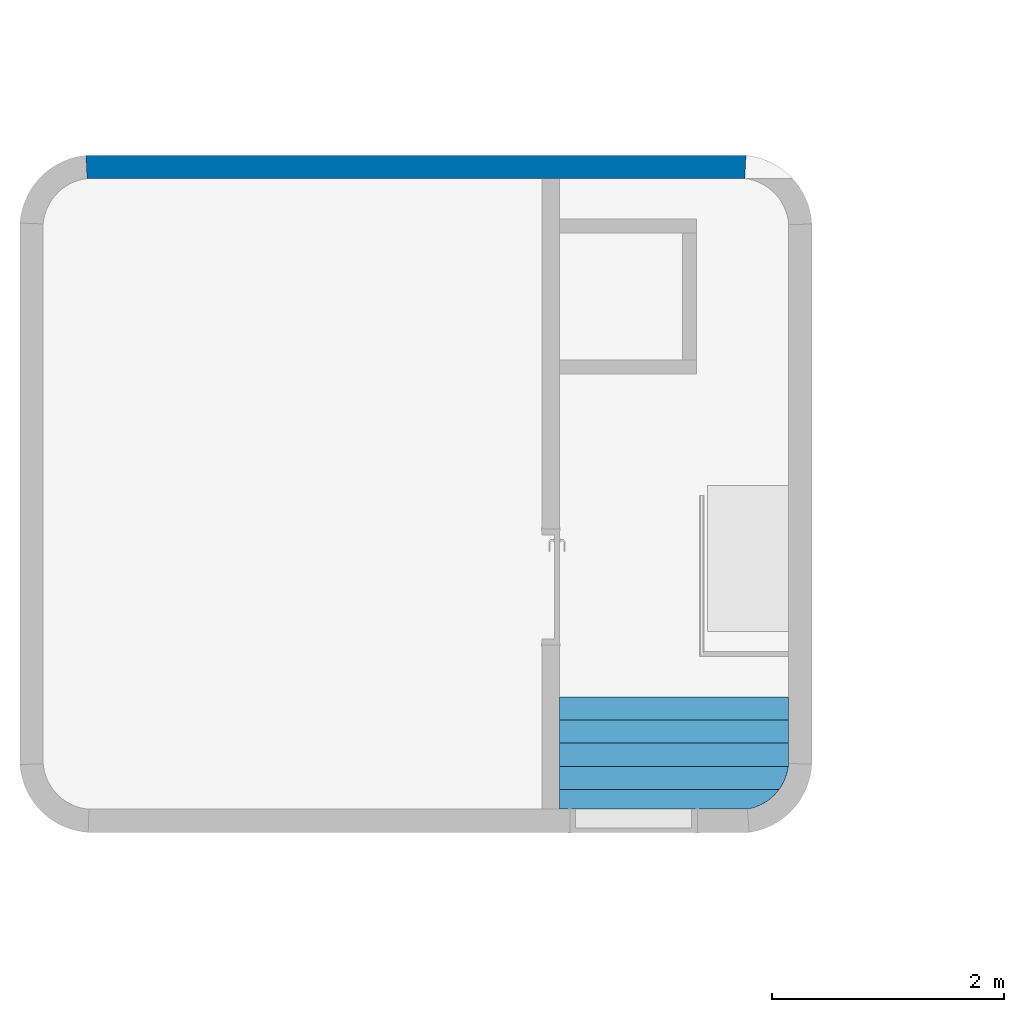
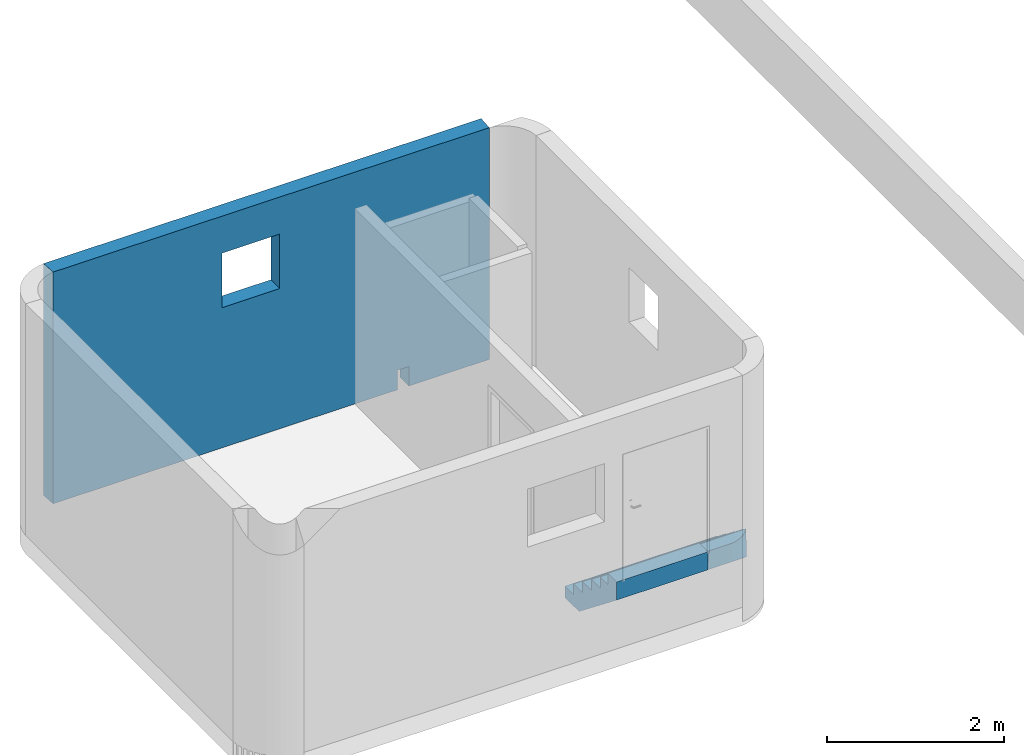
# One storey, part 2 of 2: 1 stair, 1 wall.
"""IFC2X3 building model written with IfcOpenShell, lengths in metres."""

from ifc_helpers import new_model, entity, si_unit, converted_unit, derived_unit, direction, frame, origin, place, context, subcontext, project, spatial, faceted_brep, material, layer, layer_set, type_object, element, save


model = new_model("IFC2X3")

# Units and contexts
model_context = context("Model", 3, precision=1e-05, world=origin(), true_north=direction((6.12303176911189e-17, 1.0)))
body_context = subcontext(model_context, "Body", "Model", "MODEL_VIEW")
ifc_project = project(units=[si_unit("LENGTHUNIT", "METRE"), si_unit("AREAUNIT", "SQUARE_METRE"), si_unit("VOLUMEUNIT", "CUBIC_METRE"), converted_unit("PLANEANGLEUNIT", "DEGREE", entity("IfcRatioMeasure", 0.0174532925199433), si_unit("PLANEANGLEUNIT", "RADIAN"), dimensions=[0, 0, 0, 0, 0, 0, 0]), si_unit("MASSUNIT", "GRAM", prefix="KILO"), derived_unit("MASSDENSITYUNIT", [(si_unit("MASSUNIT", "GRAM", prefix="KILO"), 1), (si_unit("LENGTHUNIT", "METRE"), -3)]), derived_unit("MOMENTOFINERTIAUNIT", [(si_unit("LENGTHUNIT", "METRE"), 4)]), si_unit("TIMEUNIT", "SECOND"), si_unit("FREQUENCYUNIT", "HERTZ"), si_unit("THERMODYNAMICTEMPERATUREUNIT", "DEGREE_CELSIUS"), derived_unit("THERMALTRANSMITTANCEUNIT", [(si_unit("MASSUNIT", "GRAM", prefix="KILO"), 1), (si_unit("THERMODYNAMICTEMPERATUREUNIT", "KELVIN"), -1), (si_unit("TIMEUNIT", "SECOND"), -3)]), derived_unit("VOLUMETRICFLOWRATEUNIT", [(si_unit("LENGTHUNIT", "METRE"), 3), (si_unit("TIMEUNIT", "SECOND"), -1)]), si_unit("ELECTRICCURRENTUNIT", "AMPERE"), si_unit("ELECTRICVOLTAGEUNIT", "VOLT"), si_unit("POWERUNIT", "WATT"), si_unit("FORCEUNIT", "NEWTON", prefix="KILO"), si_unit("ILLUMINANCEUNIT", "LUX"), si_unit("LUMINOUSFLUXUNIT", "LUMEN"), si_unit("LUMINOUSINTENSITYUNIT", "CANDELA"), derived_unit("USERDEFINED", [(si_unit("MASSUNIT", "GRAM", prefix="KILO"), -1), (si_unit("LENGTHUNIT", "METRE"), -2), (si_unit("TIMEUNIT", "SECOND"), 3), (si_unit("LUMINOUSFLUXUNIT", "LUMEN"), 1)]), derived_unit("LINEARVELOCITYUNIT", [(si_unit("LENGTHUNIT", "METRE"), 1), (si_unit("TIMEUNIT", "SECOND"), -1)]), si_unit("PRESSUREUNIT", "PASCAL"), derived_unit("USERDEFINED", [(si_unit("LENGTHUNIT", "METRE"), -2), (si_unit("MASSUNIT", "GRAM", prefix="KILO"), 1), (si_unit("TIMEUNIT", "SECOND"), -2)]), derived_unit("LINEARFORCEUNIT", [(si_unit("MASSUNIT", "GRAM", prefix="KILO"), 1), (si_unit("LENGTHUNIT", "METRE"), 1), (si_unit("TIMEUNIT", "SECOND"), -2), (si_unit("LENGTHUNIT", "METRE"), -1)]), derived_unit("PLANARFORCEUNIT", [(si_unit("MASSUNIT", "GRAM", prefix="KILO"), 1), (si_unit("LENGTHUNIT", "METRE"), 1), (si_unit("TIMEUNIT", "SECOND"), -2), (si_unit("LENGTHUNIT", "METRE"), -2)])], contexts=[model_context])

# Site, building, storey
site_placement = place(None, origin())
site = spatial("IfcSite", under=ifc_project, at=site_placement, Name="Default", CompositionType="ELEMENT")
building_placement = place(site_placement, origin())
building = spatial("IfcBuilding", under=site, at=building_placement, CompositionType="ELEMENT")
storey_placement = place(building_placement, frame((0.0, 0.0, 10.1533082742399)))
storey = spatial("IfcBuildingStorey", under=building, at=storey_placement, Name="Niveau 3 - 01", CompositionType="ELEMENT", Elevation=10.1533082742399)

# Wall
ifc_material = material(Name="Maçonnerie - Voile BA")
ifc_layer = layer(ifc_material, 0.2)
ifc_layer_set = layer_set([ifc_layer], Name="Mur de base:Ext. Voile BA 200")
wall_type = type_object("IfcWallType", Name="Mur de base:Ext. Voile BA 200", PredefinedType="STANDARD", material=ifc_layer_set)
wall_placement = place(storey_placement, frame((-9.7382398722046, -3.26411513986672, 0.0), z_axis=(0.0, 0.0, 1.0), x_axis=(-1.0, 0.0, 0.0)))
element("IfcWall", 1, at=wall_placement, inside=storey, type_object=wall_type, Name="Mur de base:Ext. Voile BA 200", ObjectType="Mur de base:Ext. Voile BA 200", context=body_context, shape_type="Brep", body=[
    faceted_brep([(5.69914326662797, -0.1, 3.19), (0.0, -0.1, 3.19), (0.0, -0.1, 0.0), (1.05574929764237, -0.1, 0.0), (1.05574929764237, -0.1, 0.269999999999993), (1.20574929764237, -0.1, 0.269999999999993), (1.20574929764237, -0.1, 0.0), (5.69914326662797, -0.1, 0.0), (3.48885260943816, -0.100000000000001, 2.68079237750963), (3.48885260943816, -0.100000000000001, 1.93079237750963), (2.73885260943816, -0.1, 1.93079237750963), (2.73885260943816, -0.1, 2.68079237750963), (0.0105120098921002, 0.1, 3.19), (5.68863125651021, 0.1, 3.19), (5.68863125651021, 0.1, 0.0), (1.76145541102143, 0.1, 0.0), (1.61145541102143, 0.0999999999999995, 0.0), (1.20574929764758, 0.1, 0.0), (1.20574929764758, 0.1, 0.269999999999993), (1.05574929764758, 0.1, 0.269999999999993), (1.05574929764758, 0.1, 0.0), (0.0105120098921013, 0.1, 0.0), (3.48885260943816, 0.0999999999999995, 1.93079237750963), (3.48885260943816, 0.0999999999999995, 2.68079237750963), (2.73885260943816, 0.1, 2.68079237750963), (2.73885260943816, 0.1, 1.93079237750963)], [[[0, 1, 2, 3, 4, 5, 6, 7], [8, 9, 10, 11]], [[12, 13, 14, 15, 16, 17, 18, 19, 20, 21], [22, 23, 24, 25]], [[1, 0, 13, 12]], [[13, 0, 7, 14]], [[1, 12, 21, 2]], [[9, 8, 23, 22]], [[10, 9, 22, 25]], [[11, 10, 25, 24]], [[8, 11, 24, 23]], [[5, 18, 17, 6]], [[19, 4, 3, 20]], [[18, 5, 4, 19]], [[7, 6, 17, 16, 15, 14]], [[3, 2, 21, 20]]]),
])

# Stair
stair_placement = place(storey_placement, frame((-11.3496952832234, -9.00911513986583, 0.0)))
element("IfcStair", 2, at=stair_placement, inside=storey, Name="Escalier coulé sur place:Escalier", ObjectType="Escalier coulé sur place:Escalier monobloc", ShapeType="STRAIGHT_RUN_STAIR", context=body_context, shape_type="Brep", body=[
    faceted_brep([(0.0, 0.969999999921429, 0.153333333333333), (1.98052592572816, 0.969999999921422, 0.153333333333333), (1.98052592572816, 1.16999999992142, 0.153333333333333), (0.0, 1.16999999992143, 0.153333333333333), (1.98052592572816, 0.969999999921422, 0.306666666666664), (1.98052592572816, 0.769999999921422, 0.306666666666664), (1.98052592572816, 0.769999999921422, 0.459999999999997), (1.98052592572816, 0.595000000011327, 0.459999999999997), (1.98052592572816, 0.595000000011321, 0.380641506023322), (1.98052592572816, 0.595000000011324, 0.290090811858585), (1.98052592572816, 0.595000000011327, 0.199540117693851), (1.98052592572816, 0.769999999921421, 0.0612239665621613), (1.98052592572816, 0.847461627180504, 0.0), (1.98052592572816, 0.969999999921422, 0.0), (1.98052592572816, 1.16999999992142, 0.0), (0.0, 1.16999999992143, 0.0), (0.0, 0.969999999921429, 0.0), (0.0, 0.847461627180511, 0.0), (0.0, 0.769999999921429, 0.0612239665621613), (0.0, 0.569999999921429, 0.21929956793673), (0.0, 0.369999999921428, 0.377375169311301), (0.0, 0.199999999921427, 0.511739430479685), (0.0, 0.0, 0.669815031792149), (0.0, 0.0, 0.919999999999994), (0.0, 0.199999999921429, 0.919999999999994), (0.0, 0.199999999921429, 0.766666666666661), (0.0, 0.369999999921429, 0.766666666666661), (0.0, 0.369999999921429, 0.61333333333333), (0.0, 0.569999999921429, 0.61333333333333), (0.0, 0.569999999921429, 0.459999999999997), (0.0, 0.769999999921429, 0.459999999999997), (0.0, 0.769999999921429, 0.306666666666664), (0.0, 0.969999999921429, 0.306666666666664), (1.19145256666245, 0.199999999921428, 0.511739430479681), (1.19145256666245, 0.0, 0.669815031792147), (1.97949356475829, 0.582482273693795, 0.209433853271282), (1.97809639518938, 0.56999999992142, 0.219299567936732), (1.96787104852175, 0.516614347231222, 0.261494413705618), (1.95099876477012, 0.464943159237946, 0.302334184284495), (1.92774863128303, 0.415810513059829, 0.341167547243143), (1.89849145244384, 0.369999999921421, 0.377375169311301), (1.86321537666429, 0.327737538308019, 0.410778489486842), (1.82283353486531, 0.290323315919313, 0.440349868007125), (1.77800650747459, 0.258369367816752, 0.465605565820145), (1.7294675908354, 0.232398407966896, 0.48613244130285), (1.67801080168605, 0.212835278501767, 0.501594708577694), (1.62447788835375, 0.199999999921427, 0.511739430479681), (1.97809639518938, 0.569999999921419, 0.459999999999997), (1.97949356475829, 0.582482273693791, 0.459999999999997), (1.97952719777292, 0.582829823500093, 0.335366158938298), (1.97809639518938, 0.569999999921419, 0.369449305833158), (1.89849145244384, 0.36999999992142, 0.61333333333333), (1.93618647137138, 0.431856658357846, 0.61333333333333), (1.9629743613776, 0.499158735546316, 0.61333333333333), (1.97809639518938, 0.569999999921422, 0.61333333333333), (1.19145256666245, 0.199999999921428, 0.766666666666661), (1.62447788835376, 0.200000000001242, 0.766666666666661), (1.68849576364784, 0.21621836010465, 0.766666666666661), (1.74927898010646, 0.242039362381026, 0.766666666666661), (1.80539658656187, 0.276855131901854, 0.766666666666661), (1.85552746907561, 0.3198460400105, 0.766666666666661), (1.89849145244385, 0.369999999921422, 0.766666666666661), (1.19145256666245, 0.0, 0.919999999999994), (1.19145256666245, 0.199999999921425, 0.919999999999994)], [[[0, 1, 2, 3]], [[2, 1, 4, 5, 6, 7, 8, 9, 10, 11, 12, 13, 14]], [[3, 2, 14, 15]], [[0, 3, 15, 16, 17, 18, 19, 20, 21, 22, 23, 24, 25, 26, 27, 28, 29, 30, 31, 32]], [[31, 5, 4, 32]], [[32, 4, 1, 0]], [[16, 15, 14, 13, 12, 17]], [[33, 34, 22, 21, 20, 19, 18, 17, 12, 11, 10, 35, 36, 37, 38, 39, 40, 41, 42, 43, 44, 45, 46]], [[29, 47, 48, 7, 6, 30]], [[48, 49, 8]], [[9, 49, 35]], [[8, 49, 9]], [[7, 48, 8]], [[35, 10, 9]], [[50, 49, 48]], [[35, 49, 36]], [[49, 50, 36]], [[48, 47, 50]], [[30, 6, 5, 31]], [[27, 51, 52, 53, 54, 28]], [[39, 38, 52]], [[51, 40, 52]], [[52, 40, 39]], [[38, 53, 52]], [[37, 36, 50, 47]], [[53, 47, 54]], [[53, 38, 47]], [[47, 38, 37]], [[28, 54, 47, 29]], [[25, 55, 56, 57, 58, 59, 60, 61, 26]], [[56, 55, 33, 46]], [[26, 61, 51, 27]], [[44, 43, 58]], [[45, 44, 57]], [[46, 45, 56]], [[56, 45, 57]], [[44, 58, 57]], [[43, 59, 58]], [[41, 40, 51]], [[42, 41, 60]], [[59, 42, 60]], [[51, 61, 60]], [[41, 51, 60]], [[42, 59, 43]], [[23, 62, 63, 24]], [[63, 62, 34, 33, 55]], [[24, 63, 55, 25]], [[62, 23, 22, 34]]]),
])

save(model, "model.ifc")
